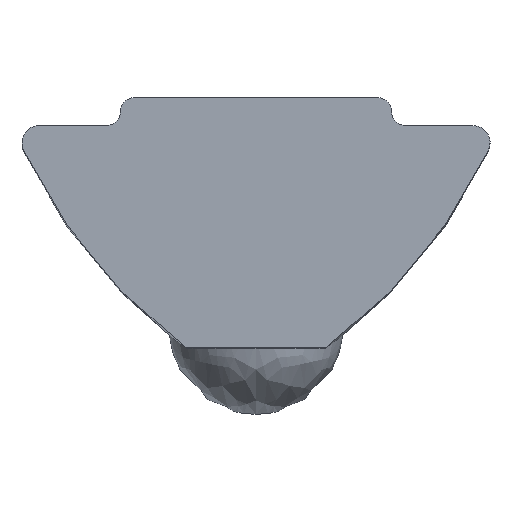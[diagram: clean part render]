
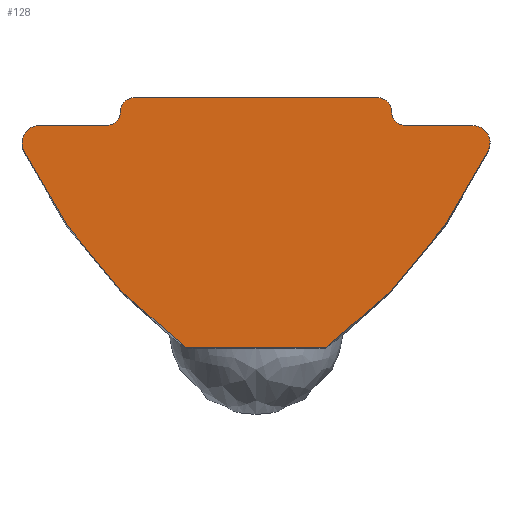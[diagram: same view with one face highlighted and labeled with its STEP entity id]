
A CAD part, top view. The second image highlights one B-rep face of the part: STEP entity #128.
In plain terms, the highlighted planar face has unit normal (0, 0, 1).
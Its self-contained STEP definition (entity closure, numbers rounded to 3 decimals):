
#87 = DIRECTION ( 'NONE',  ( -1., 0., 0. ) ) ;
#110 = DIRECTION ( 'NONE',  ( -1., 0., 0. ) ) ;
#128 = ADVANCED_FACE ( 'NONE', ( #2713 ), #1212, .T. ) ;
#185 = CARTESIAN_POINT ( 'NONE',  ( 6.686, -1.513, 22. ) ) ;
#198 = CIRCLE ( 'NONE', #3275, 15. ) ;
#259 = VECTOR ( 'NONE', #721, 1000. ) ;
#280 = AXIS2_PLACEMENT_3D ( 'NONE', #3470, #2491, #2529 ) ;
#286 = CARTESIAN_POINT ( 'NONE',  ( -6.686, -1.513, 22. ) ) ;
#287 = AXIS2_PLACEMENT_3D ( 'NONE', #3360, #585, #291 ) ;
#291 = DIRECTION ( 'NONE',  ( -1., 0., 0. ) ) ;
#298 = EDGE_CURVE ( 'NONE', #592, #3616, #1941, .T. ) ;
#307 = ORIENTED_EDGE ( 'NONE', *, *, #909, .T. ) ;
#313 = CARTESIAN_POINT ( 'NONE',  ( 0., 0., 22. ) ) ;
#350 = CIRCLE ( 'NONE', #1759, 0.5 ) ;
#412 = DIRECTION ( 'NONE',  ( 0., 0., -1. ) ) ;
#498 = CARTESIAN_POINT ( 'NONE',  ( 6.233, -1.3, 22. ) ) ;
#570 = EDGE_CURVE ( 'NONE', #2879, #2659, #2886, .T. ) ;
#585 = DIRECTION ( 'NONE',  ( 0., 0., -1. ) ) ;
#587 = EDGE_CURVE ( 'NONE', #2454, #1478, #2351, .T. ) ;
#592 = VERTEX_POINT ( 'NONE', #1370 ) ;
#626 = CARTESIAN_POINT ( 'NONE',  ( -6.733, -1.3, 22. ) ) ;
#696 = VERTEX_POINT ( 'NONE', #2665 ) ;
#721 = DIRECTION ( 'NONE',  ( 1., 0., 0. ) ) ;
#770 = CARTESIAN_POINT ( 'NONE',  ( 0., -0.8, 22. ) ) ;
#817 = EDGE_CURVE ( 'NONE', #2382, #2879, #1493, .T. ) ;
#834 = DIRECTION ( 'NONE',  ( 0., 0., -1. ) ) ;
#909 = EDGE_CURVE ( 'NONE', #696, #3851, #3036, .T. ) ;
#916 = CARTESIAN_POINT ( 'NONE',  ( -2., -7.2, 22. ) ) ;
#961 = VERTEX_POINT ( 'NONE', #916 ) ;
#1020 = DIRECTION ( 'NONE',  ( -1., 0., 0. ) ) ;
#1084 = CARTESIAN_POINT ( 'NONE',  ( 0., -0.8, 22. ) ) ;
#1212 = PLANE ( 'NONE',  #1611 ) ;
#1220 = ORIENTED_EDGE ( 'NONE', *, *, #570, .T. ) ;
#1223 = CARTESIAN_POINT ( 'NONE',  ( 3.9, -0.4, 22. ) ) ;
#1234 = VECTOR ( 'NONE', #1665, 1000. ) ;
#1282 = CARTESIAN_POINT ( 'NONE',  ( 6.879, 4.89, 22. ) ) ;
#1310 = CARTESIAN_POINT ( 'NONE',  ( 0., -7.2, 22. ) ) ;
#1353 = EDGE_CURVE ( 'NONE', #2454, #3851, #350, .T. ) ;
#1370 = CARTESIAN_POINT ( 'NONE',  ( 3.5, 0., 22. ) ) ;
#1373 = CIRCLE ( 'NONE', #287, 0.4 ) ;
#1475 = EDGE_CURVE ( 'NONE', #3537, #2659, #3425, .T. ) ;
#1478 = VERTEX_POINT ( 'NONE', #2009 ) ;
#1493 = CIRCLE ( 'NONE', #280, 0.4 ) ;
#1552 = DIRECTION ( 'NONE',  ( -1., 0., 0. ) ) ;
#1571 = CARTESIAN_POINT ( 'NONE',  ( 0., 0., 22. ) ) ;
#1611 = AXIS2_PLACEMENT_3D ( 'NONE', #313, #2731, #2090 ) ;
#1624 = CARTESIAN_POINT ( 'NONE',  ( -6.233, -1.3, 22. ) ) ;
#1639 = EDGE_CURVE ( 'NONE', #2382, #3616, #1373, .T. ) ;
#1665 = DIRECTION ( 'NONE',  ( -1., 0., 0. ) ) ;
#1678 = VECTOR ( 'NONE', #3837, 1000. ) ;
#1755 = CARTESIAN_POINT ( 'NONE',  ( -4.3, -0.8, 22. ) ) ;
#1759 = AXIS2_PLACEMENT_3D ( 'NONE', #498, #834, #3864 ) ;
#1838 = DIRECTION ( 'NONE',  ( 0., 0., 1. ) ) ;
#1855 = ORIENTED_EDGE ( 'NONE', *, *, #3069, .T. ) ;
#1941 = LINE ( 'NONE', #1571, #2184 ) ;
#1973 = CARTESIAN_POINT ( 'NONE',  ( 3.5, -0.4, 22. ) ) ;
#1998 = DIRECTION ( 'NONE',  ( -1., 0., 0. ) ) ;
#1999 = VERTEX_POINT ( 'NONE', #286 ) ;
#2009 = CARTESIAN_POINT ( 'NONE',  ( 4.3, -0.8, 22. ) ) ;
#2072 = DIRECTION ( 'NONE',  ( 0., 0., -1. ) ) ;
#2090 = DIRECTION ( 'NONE',  ( 1., 0., 0. ) ) ;
#2162 = CARTESIAN_POINT ( 'NONE',  ( -6.233, -0.8, 22. ) ) ;
#2177 = DIRECTION ( 'NONE',  ( 0., 0., -1. ) ) ;
#2184 = VECTOR ( 'NONE', #110, 1000. ) ;
#2192 = AXIS2_PLACEMENT_3D ( 'NONE', #3067, #1838, #2440 ) ;
#2208 = CARTESIAN_POINT ( 'NONE',  ( 4.3, -0.4, 22. ) ) ;
#2224 = EDGE_CURVE ( 'NONE', #961, #1999, #198, .T. ) ;
#2289 = EDGE_LOOP ( 'NONE', ( #3407, #3356, #1220, #3512, #3665, #3872, #1855, #307, #2434, #2379, #2578, #2718, #2701 ) ) ;
#2351 = LINE ( 'NONE', #1084, #1234 ) ;
#2354 = CARTESIAN_POINT ( 'NONE',  ( -6.233, -1.3, 22. ) ) ;
#2379 = ORIENTED_EDGE ( 'NONE', *, *, #587, .T. ) ;
#2382 = VERTEX_POINT ( 'NONE', #3273 ) ;
#2434 = ORIENTED_EDGE ( 'NONE', *, *, #1353, .F. ) ;
#2440 = DIRECTION ( 'NONE',  ( -1., 0., 0. ) ) ;
#2454 = VERTEX_POINT ( 'NONE', #2947 ) ;
#2491 = DIRECTION ( 'NONE',  ( 0., 0., -1. ) ) ;
#2529 = DIRECTION ( 'NONE',  ( -1., 0., 0. ) ) ;
#2542 = EDGE_CURVE ( 'NONE', #592, #3403, #2948, .T. ) ;
#2578 = ORIENTED_EDGE ( 'NONE', *, *, #3596, .T. ) ;
#2614 = CIRCLE ( 'NONE', #3006, 0.5 ) ;
#2659 = VERTEX_POINT ( 'NONE', #2162 ) ;
#2665 = CARTESIAN_POINT ( 'NONE',  ( 2., -7.2, 22. ) ) ;
#2701 = ORIENTED_EDGE ( 'NONE', *, *, #298, .T. ) ;
#2713 = FACE_OUTER_BOUND ( 'NONE', #2289, .T. ) ;
#2718 = ORIENTED_EDGE ( 'NONE', *, *, #2542, .F. ) ;
#2731 = DIRECTION ( 'NONE',  ( 0., 0., 1. ) ) ;
#2841 = DIRECTION ( 'NONE',  ( 0., 0., -1. ) ) ;
#2878 = DIRECTION ( 'NONE',  ( 0., 0., -1. ) ) ;
#2879 = VERTEX_POINT ( 'NONE', #1755 ) ;
#2886 = LINE ( 'NONE', #770, #1678 ) ;
#2947 = CARTESIAN_POINT ( 'NONE',  ( 6.233, -0.8, 22. ) ) ;
#2948 = CIRCLE ( 'NONE', #3603, 0.4 ) ;
#3006 = AXIS2_PLACEMENT_3D ( 'NONE', #1624, #2841, #1020 ) ;
#3036 = CIRCLE ( 'NONE', #2192, 15. ) ;
#3067 = CARTESIAN_POINT ( 'NONE',  ( -6.879, 4.89, 22. ) ) ;
#3069 = EDGE_CURVE ( 'NONE', #961, #696, #3480, .T. ) ;
#3094 = EDGE_CURVE ( 'NONE', #1999, #3537, #2614, .T. ) ;
#3273 = CARTESIAN_POINT ( 'NONE',  ( -3.9, -0.4, 22. ) ) ;
#3275 = AXIS2_PLACEMENT_3D ( 'NONE', #1282, #2177, #87 ) ;
#3333 = AXIS2_PLACEMENT_3D ( 'NONE', #2208, #412, #1552 ) ;
#3356 = ORIENTED_EDGE ( 'NONE', *, *, #817, .T. ) ;
#3360 = CARTESIAN_POINT ( 'NONE',  ( -3.5, -0.4, 22. ) ) ;
#3403 = VERTEX_POINT ( 'NONE', #1223 ) ;
#3407 = ORIENTED_EDGE ( 'NONE', *, *, #1639, .F. ) ;
#3425 = CIRCLE ( 'NONE', #3741, 0.5 ) ;
#3445 = CARTESIAN_POINT ( 'NONE',  ( -3.5, 0., 22. ) ) ;
#3470 = CARTESIAN_POINT ( 'NONE',  ( -4.3, -0.4, 22. ) ) ;
#3480 = LINE ( 'NONE', #1310, #259 ) ;
#3512 = ORIENTED_EDGE ( 'NONE', *, *, #1475, .F. ) ;
#3537 = VERTEX_POINT ( 'NONE', #626 ) ;
#3591 = DIRECTION ( 'NONE',  ( -1., 0., 0. ) ) ;
#3596 = EDGE_CURVE ( 'NONE', #1478, #3403, #3599, .T. ) ;
#3599 = CIRCLE ( 'NONE', #3333, 0.4 ) ;
#3603 = AXIS2_PLACEMENT_3D ( 'NONE', #1973, #2878, #1998 ) ;
#3616 = VERTEX_POINT ( 'NONE', #3445 ) ;
#3665 = ORIENTED_EDGE ( 'NONE', *, *, #3094, .F. ) ;
#3741 = AXIS2_PLACEMENT_3D ( 'NONE', #2354, #2072, #3591 ) ;
#3837 = DIRECTION ( 'NONE',  ( -1., 0., 0. ) ) ;
#3851 = VERTEX_POINT ( 'NONE', #185 ) ;
#3864 = DIRECTION ( 'NONE',  ( -1., 0., 0. ) ) ;
#3872 = ORIENTED_EDGE ( 'NONE', *, *, #2224, .F. ) ;
